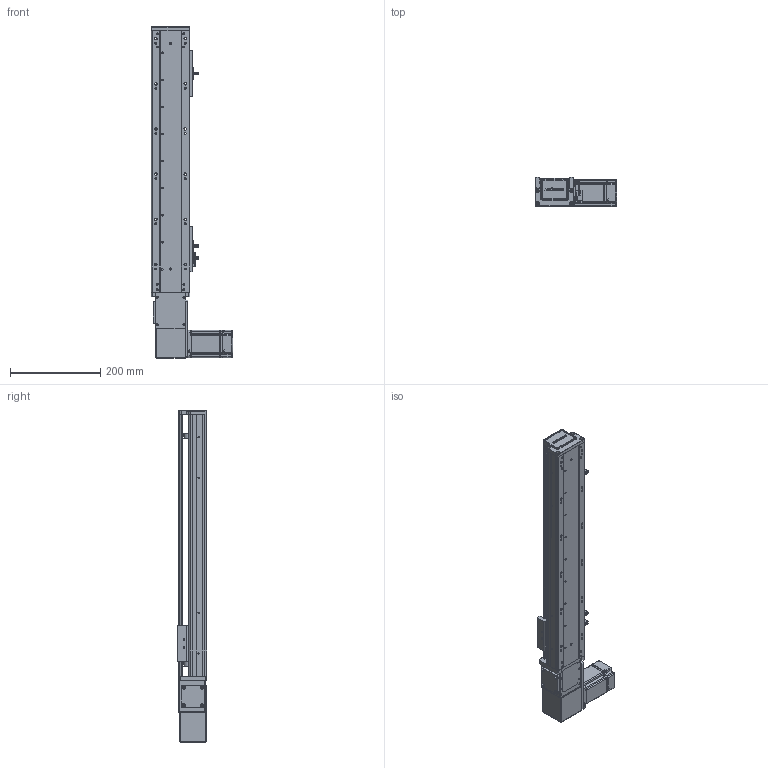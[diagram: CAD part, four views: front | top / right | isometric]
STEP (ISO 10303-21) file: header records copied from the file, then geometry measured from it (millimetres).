
FILE_DESCRIPTION (( 'STEP AP203' ), '1' );
FILE_NAME ('RY80-T-300-RK.SLDASM_400.step', '2021-03-01T02:06:12', ( '盈信电脑' ), ( '东莞市道滘镇水果街19号' ), 'SwSTEP 2.0', 'SolidWorks 2012', '' );
FILE_SCHEMA (( 'CONFIG_CONTROL_DESIGN' ));
Products named in the file (20): RY100-T粣創揤踡裔; RY80-T-300-RK.SLDASM_400; 滅袉蝶18-10; RY80-T肮祭謫俋欶; RY80-T翋肮祭謫裔啣; RY80-T-M4蹟翐; RY80-T粣創揤踡輸; RY80-T肮祭湍揤輸2; RY80-T萇儂假蚾啣; RY80-T肮祭湍揤輸1; 1; 侂狟200W萇儂; RY80俋离覜茼え; RY80-T-翋肮祭謫釱; 覜茼ん672; RY80-T綴裔啣; 672嫖萇羲壽假蚾釱; RY80-T-300-RK倰第奻裔啣_400; RY80-T-300-RK倰第菁釱_400; RY80-T肮祭謫臏賑輸
Assembly tree (25 placements, depth 3):
  RY80-T-300-RK.SLDASM_400
    RY80-T-300-RK倰第菁釱_400
    RY80-T肮祭謫臏賑輸
    RY80-T-300-RK倰第奻裔啣_400
    RY80-T綴裔啣
    672嫖萇羲壽假蚾釱  x2
    覜茼ん672  x3
    RY80俋离覜茼え
    侂狟200W萇儂
      1
    RY80-T-翋肮祭謫釱
    RY80-T萇儂假蚾啣
    RY80-T肮祭湍揤輸1
    RY80-T肮祭湍揤輸2
    RY80-T粣創揤踡輸
    RY80-T-M4蹟翐  x2
    RY80-T翋肮祭謫裔啣  x2
    RY80-T肮祭謫俋欶
    滅袉蝶18-10  x2
    RY100-T粣創揤踡裔
Bounding box: 180 x 65 x 735 mm (x, y, z)
Volume: 1414443.8 mm3; surface area: 566307 mm2
Topology: 24 solids, 24 shells, 2439 faces, 6705 edges, 4357 vertices
Faces by surface type: plane 1327, cylinder 909, cone 147, bspline 56
Entity records: 76102 total; most frequent: CARTESIAN_POINT 18078, ORIENTED_EDGE 11854, DIRECTION 11206, EDGE_CURVE 5927, VERTEX_POINT 3898, AXIS2_PLACEMENT_3D 3754, VECTOR 3698, LINE 3698
